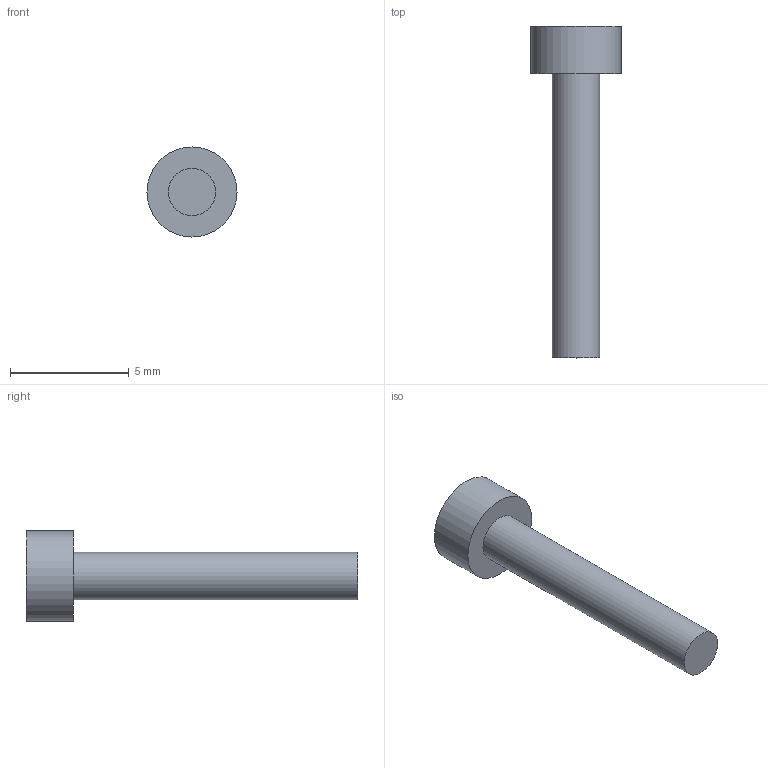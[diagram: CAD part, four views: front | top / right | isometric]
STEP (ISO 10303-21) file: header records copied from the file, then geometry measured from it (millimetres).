
FILE_DESCRIPTION(('Open CASCADE Model'),'2;1');
FILE_NAME('REF_screw_SSCF-M2-12-A2_closure_-34_+62_simplified', '2026-09-08T13:43:21',('Author'),('Open CASCADE'), 'Open CASCADE STEP processor 7.8','build123d','Unknown');
FILE_SCHEMA(('AUTOMOTIVE_DESIGN { 1 0 10303 214 1 1 1 1 }'));
Length unit declared in the file: millimetre
Products named in the file (2): =>[0:1:1:2]; REF_screw_SSCF-M2-12-A2_closure_-34_+62_simplified
Assembly tree (1 placements, depth 2):
  =>[0:1:1:2]
    REF_screw_SSCF-M2-12-A2_closure_-34_+62_simplified
Bounding box: 3.8 x 14 x 3.8 mm (x, y, z)
Volume: 60.4 mm3; surface area: 122 mm2
Topology: 1 solids, 1 shells, 5 faces, 6 edges, 4 vertices
Faces by surface type: plane 3, cylinder 2
Full cylindrical faces by diameter (mm): 2 x1, 3.8 x1
Entity records: 210 total; most frequent: DIRECTION 36, CARTESIAN_POINT 29, ORIENTED_EDGE 12, PCURVE 12, DEFINITIONAL_REPRESENTATION 12, AXIS2_PLACEMENT_3D 11, LINE 10, VECTOR 10
